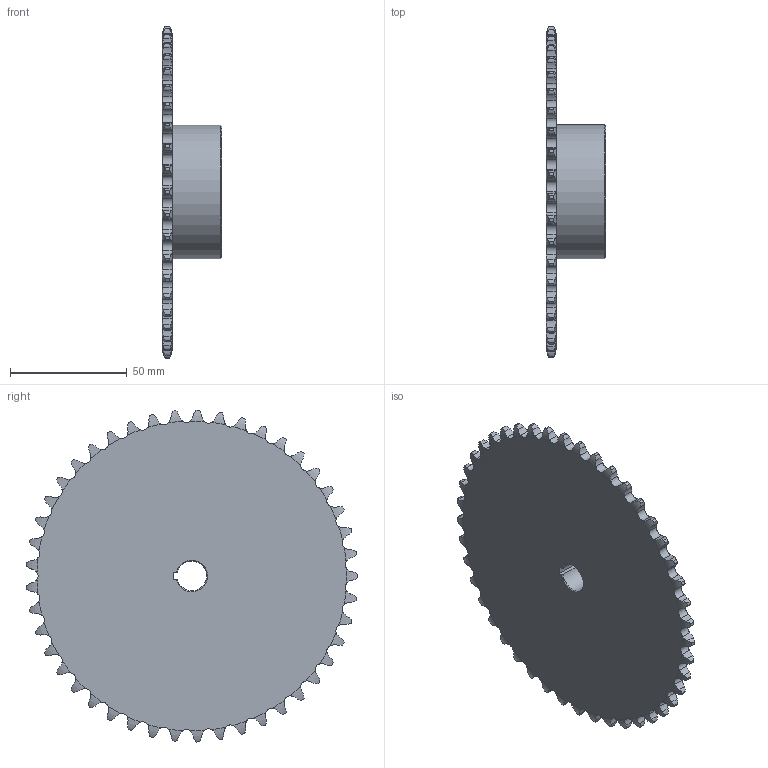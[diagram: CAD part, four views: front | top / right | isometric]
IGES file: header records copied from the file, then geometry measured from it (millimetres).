
Global section: file name: No Iges File Name specified; native system: AutoDesk Inventor R5.0; preprocessor: AutoDesk Inventor Iges Exporter R5.0; author: No Author specified; organization: No Organization specified; date: 20040116.173745; units: inch
Bounding box: 25.4 x 141.8 x 141.88 mm (x, y, z)
Surface area: 36091 mm2 (no closed solid volume)
Topology: 0 solids, 0 shells, 371 faces, 2212 edges, 2210 vertices
Faces by surface type: revolution 364, plane 6, bspline 1
